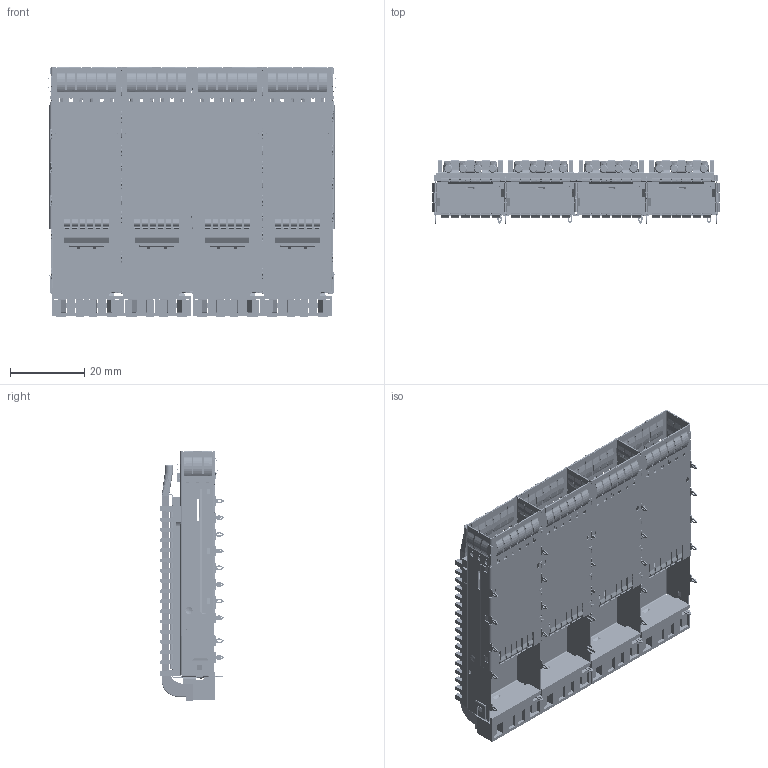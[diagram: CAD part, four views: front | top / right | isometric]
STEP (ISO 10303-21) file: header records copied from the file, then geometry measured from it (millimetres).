
FILE_DESCRIPTION(/* description */ (''),/* implementation_level */ '2;1');
FILE_NAME(/* name */ '完整-QSFP28 1X4 压接-后1脚-散热器15.1-4柱导光柱62.55-有CAP HT10-5014122-20S.stp',/* time_stamp */ '2025-10-07T14:15:37+08:00',/* author */ (''),/* organization */ (''),/* preprocessor_version */ 'ST-DEVELOPER v16.7',/* originating_system */ 'SIEMENS PLM Software NX 1847',/* authorisation */ '');
FILE_SCHEMA (('AUTOMOTIVE_DESIGN { 1 0 10303 214 3 1 1 1 }'));
Products named in the file (1): Admi34B487EAqu1j
Bounding box: 77.91 x 17.15 x 67.25 mm (x, y, z)
Volume: 20516 mm3; surface area: 47261.7 mm2
Topology: 1 solids, 5 shells, 12166 faces, 32372 edges, 19918 vertices
Faces by surface type: plane 7035, cylinder 4500, bspline 475, sphere 96, cone 32, torus 28
Entity records: 472324 total; most frequent: CARTESIAN_POINT 91603, ORIENTED_EDGE 64666, DIRECTION 63786, EDGE_CURVE 32333, AXIS2_PLACEMENT_3D 21299, LINE 21188, VECTOR 21188, VERTEX_POINT 19919
